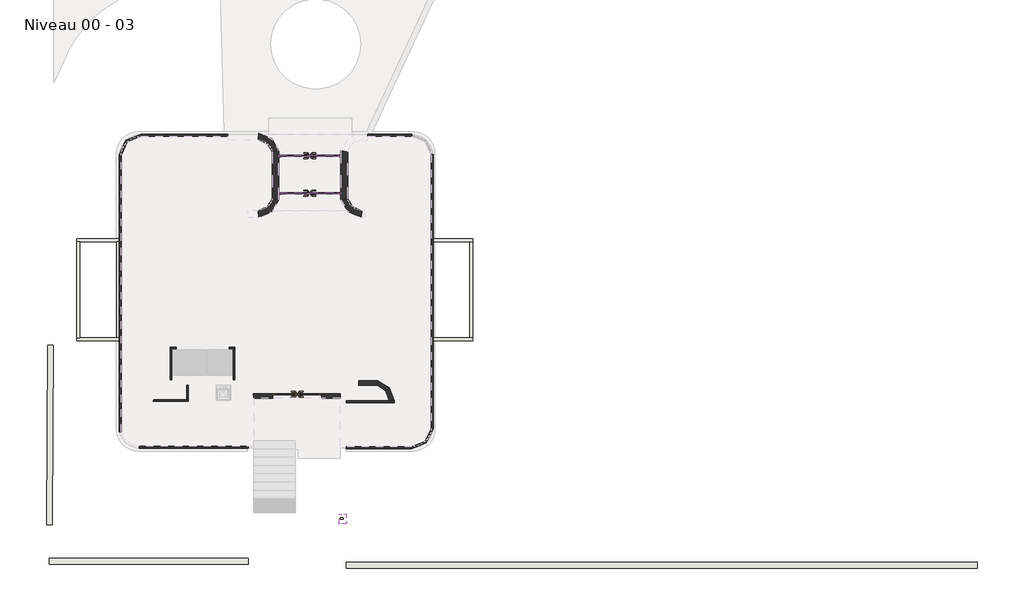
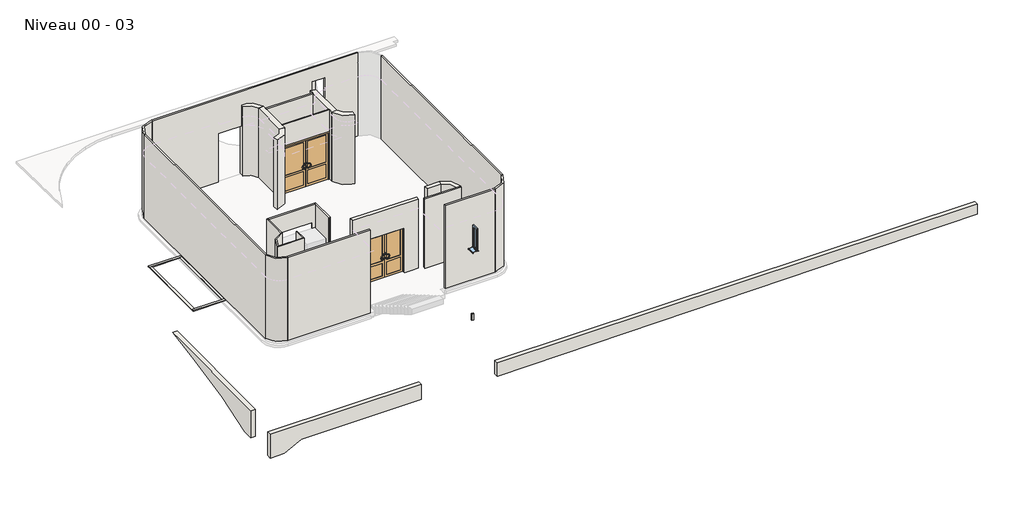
# One storey, part 1 of 2: 37 walls, 3 doors, 1 window.
"""IFC4 building model written with IfcOpenShell, lengths in millimetres."""

from ifc_helpers import new_model, si_unit, point, frame, frame_2d, origin, place, context, project, spatial, polyline, circle_curve, trimmed, segment, composite_curve, outline, extrude, faceted_brep, transform, mapped, element, save
from ifc_brep_helpers import plane_surface, cylinder_surface, revolved_surface, advanced_brep
from components import door_1_63m_x_2_10m_9088033a, door_2m_x_2_20m_0dc4434d, window_32_x_105_cm_cd53f0fd

model = new_model("IFC4")

# Units and contexts
model_context = context("Model", 3, world=origin())
ifc_project = project(units=[si_unit("LENGTHUNIT", "METRE", prefix="MILLI")], contexts=[model_context])

# Site, building, storey
site = spatial("IfcSite", under=ifc_project)
building = spatial("IfcBuilding", under=site)
storey = spatial("IfcBuildingStorey", under=building, Name="Niveau 00 - 03", Elevation=2313.3082742)

# Doors
placement = place(None, origin())
door_1_63m_x_2_10m_shape = door_1_63m_x_2_10m_9088033a(model_context)
element("IfcDoor", 1, ObjectType="PVC Double - Panneaux vitrés haut : 1.63m x 2.10m", at=placement, inside=storey, context=model_context, shape_type="MappedRepresentation", body=[
    mapped(door_1_63m_x_2_10m_shape, transform((-17285.8209314, 17321.0043299, 2313.3082742), x_axis=(-1.0, 0.0, 0.0), y_axis=(0.0, -1.0, 0.0), z_axis=(0.0, 0.0, 1.0))),
])
door_2m_x_2_20m_shape = door_2m_x_2_20m_0dc4434d(model_context)
element("IfcDoor", 2, ObjectType="PVC Double - Panneaux vitrés haut : 2m x 2.20m", at=placement, inside=storey, context=model_context, shape_type="MappedRepresentation", body=[
    mapped(door_2m_x_2_20m_shape, transform((-16855.3577962, 25423.7928549, 2313.3082742), x_axis=(-1.0, 0.0, 0.0), y_axis=(0.0, -1.0, 0.0), z_axis=(0.0, 0.0, 1.0))),
])
element("IfcDoor", 3, ObjectType="PVC Double - Panneaux vitrés haut : 2m x 2.20m", at=placement, inside=storey, context=model_context, shape_type="MappedRepresentation", body=[
    mapped(door_2m_x_2_20m_shape, transform((-16855.3577962, 24159.9768806, 2313.3082742), x_axis=(-1.0, 0.0, 0.0), y_axis=(0.0, -1.0, 0.0), z_axis=(0.0, 0.0, 1.0))),
])

# Walls
element("IfcWall", 4, ObjectType="Mur EXE 200- Hach", at=placement, inside=storey, context=model_context, shape_type="SweptSolid", body=[
    extrude(outline(polyline([(622.531622, -15635.8209314), (798.2088739, 5684.4653665), (1259.6267175, 5684.4653665), (1259.6267175, -15635.8209314), (622.531622, -15635.8209314)])), frame((0.0, 11514.8559081, 0.0), z_axis=(0.0, 1.0, 0.0), x_axis=(0.0, 0.0, 1.0)), (0.0, 0.0, 1.0), 200.0),
])
element("IfcWall", 5, ObjectType="@_Générique - Int. 100 mm", at=placement, inside=storey, context=model_context, shape_type="Brep", body=[
    faceted_brep([(-11353.9252008, 22643.951789, 2213.3082742), (-12973.9252028, 22643.9517885, 2213.3082742), (-12973.9252028, 22643.9517885, 2248.3082742), (-11353.9252008, 22643.951789, 2248.3082742), (-11353.9252007, 22543.951789, 2213.3082742), (-11353.9252007, 22543.951789, 2248.3082742), (-11453.9252007, 22543.9517889, 2248.3082742), (-12873.9252027, 22543.9517885, 2248.3082742), (-12973.9252027, 22543.9517885, 2248.3082742), (-12973.9252027, 22543.9517885, 2213.3082742), (-12873.9252027, 22543.9517885, 2213.3082742), (-11453.9252007, 22543.9517889, 2213.3082742)], [[[0, 1, 2, 3]], [[4, 5, 6, 7, 8, 9, 10, 11]], [[1, 0, 4, 11, 10, 9]], [[3, 2, 8, 7, 6, 5]], [[0, 3, 5, 4]], [[2, 1, 9, 8]]]),
])
element("IfcWall", 6, ObjectType="@_Générique - Int. 100 mm", at=placement, inside=storey, context=model_context, shape_type="SweptSolid", body=[
    extrude(outline(polyline([(-11453.9252007, 22543.9517889), (-11353.9252007, 22543.951789), (-11353.9251982, 19293.9517898), (-11453.9251982, 19293.9517898), (-11453.9252007, 22543.9517889)])), frame((0.0, 0.0, 2213.3082742), z_axis=(0.0, 0.0, 1.0), x_axis=(1.0, 0.0, 0.0)), (0.0, 0.0, 1.0), 35.0),
])
element("IfcWall", 7, ObjectType="@_Générique - Int. 100 mm", at=placement, inside=storey, context=model_context, shape_type="Brep", body=[
    faceted_brep([(-12873.9252001, 19193.9517898, 2213.3082742), (-11353.9252007, 19193.9517898, 2213.3082742), (-11353.9252007, 19193.9517898, 2248.3082742), (-12873.9252001, 19193.9517898, 2248.3082742), (-12873.9252002, 19293.9517898, 2213.3082742), (-12873.9252002, 19293.9517898, 2248.3082742), (-11453.9251982, 19293.9517898, 2248.3082742), (-11353.9252007, 19293.9517898, 2248.3082742), (-11353.9252007, 19293.9517898, 2213.3082742), (-11453.9251982, 19293.9517898, 2213.3082742)], [[[0, 1, 2, 3]], [[4, 5, 6, 7, 8, 9]], [[1, 0, 4, 9, 8]], [[2, 1, 8, 7]], [[3, 2, 7, 6, 5]], [[0, 3, 5, 4]]]),
])
element("IfcWall", 8, ObjectType="@_Générique - Int. 100 mm", at=placement, inside=storey, context=model_context, shape_type="SweptSolid", body=[
    extrude(outline(polyline([(-15723.9891644, 13222.7376981), (-15723.9891644, 13172.7376981), (-15823.9891644, 13172.7376981), (-15823.9891644, 13222.7376981), (-15723.9891644, 13222.7376981)])), frame((0.0, 0.0, 2313.3082742), z_axis=(0.0, 0.0, 1.0), x_axis=(1.0, 0.0, 0.0)), (0.0, 0.0, 1.0), 300.0),
])
element("IfcWall", 9, ObjectType="@_Générique - Int. 200 mm", at=placement, inside=storey, context=model_context, shape_type="Brep", body=[
    faceted_brep([(-25544.8151851, 13443.3148131, 386.5646826), (-25534.9184353, 15198.5787496, 956.8935731), (-25521.9042976, 17506.7351398, 1423.3082742), (-25513.2566048, 19040.4692909, 1662.0994166), (-25546.3919879, 13163.6568459, 1662.0994166), (-25547.4068865, 12983.6568459, 1662.0994166), (-25547.4068865, 12983.6568459, 700.0), (-25547.4068865, 12983.6568459, 386.5646826), (-25744.8120061, 13444.4424603, 386.5646826), (-25747.4100655, 12983.6568459, 386.5646826), (-25747.4100655, 12983.6568459, 1662.0994166), (-25713.2534258, 19041.5969382, 1662.0994166), (-25721.9011186, 17507.862787, 1423.3082742), (-25734.9152563, 15199.7063969, 956.8935731)], [[[0, 1, 2, 3, 4, 5, 6, 7]], [[8, 9, 10, 11, 12, 13]], [[0, 7, 9, 8]], [[5, 4, 3, 11, 10]], [[1, 0, 8, 13]], [[2, 1, 13, 12]], [[3, 2, 12, 11]], [[7, 6, 5, 10, 9]]]),
])
element("IfcWall", 10, ObjectType="@_Générique - Int. 100 mm", at=placement, inside=storey, context=model_context, shape_type="Brep", body=[
    faceted_brep([(-24723.1782759, 22543.951789, 2213.3082742), (-24623.1782759, 22543.951789, 2213.3082742), (-23373.1782807, 22543.9517886, 2213.3082742), (-23273.1782807, 22543.9517886, 2213.3082742), (-23273.1782807, 22543.9517886, 2248.3082742), (-23373.1782807, 22543.9517886, 2248.3082742), (-24623.1782759, 22543.951789, 2248.3082742), (-24723.1782759, 22543.951789, 2248.3082742), (-24723.1782759, 22643.951789, 2213.3082742), (-24723.1782759, 22643.951789, 2248.3082742), (-23273.1782808, 22643.9517886, 2248.3082742), (-23273.1782808, 22643.9517886, 2213.3082742)], [[[0, 1, 2, 3, 4, 5, 6, 7]], [[8, 9, 10, 11]], [[3, 2, 1, 0, 8, 11]], [[7, 6, 5, 4, 10, 9]], [[4, 3, 11, 10]], [[0, 7, 9, 8]]]),
])
element("IfcWall", 11, ObjectType="@_Générique - Int. 100 mm", at=placement, inside=storey, context=model_context, shape_type="Brep", body=[
    faceted_brep([(-23273.1782782, 19293.9517898, 2213.3082742), (-23373.1782782, 19293.9517898, 2213.3082742), (-24623.1782784, 19293.9517895, 2213.3082742), (-24723.1782784, 19293.9517895, 2213.3082742), (-24723.1782784, 19293.9517895, 2248.3082742), (-24623.1782784, 19293.9517895, 2248.3082742), (-23373.1782782, 19293.9517898, 2248.3082742), (-23273.1782782, 19293.9517898, 2248.3082742), (-23273.1782782, 19193.9517898, 2213.3082742), (-23273.1782782, 19193.9517898, 2248.3082742), (-24723.1782785, 19193.9517895, 2248.3082742), (-24723.1782785, 19193.9517895, 2213.3082742)], [[[0, 1, 2, 3, 4, 5, 6, 7]], [[8, 9, 10, 11]], [[3, 2, 1, 0, 8, 11]], [[7, 6, 5, 4, 10, 9]], [[0, 7, 9, 8]], [[4, 3, 11, 10]]]),
])
element("IfcWall", 12, ObjectType="@_Générique - Int. 100 mm", at=placement, inside=storey, context=model_context, shape_type="Brep", body=[
    faceted_brep([(-12873.9252001, 19193.9517898, 2213.3082742), (-12873.9252002, 19293.9517898, 2213.3082742), (-12873.9252027, 22543.9517885, 2213.3082742), (-12873.9252027, 22543.9517885, 2248.3082742), (-12873.9252002, 19293.9517898, 2248.3082742), (-12873.9252001, 19193.9517898, 2248.3082742), (-12973.9252001, 19193.9517898, 2213.3082742), (-12973.9252001, 19193.9517898, 2248.3082742), (-12973.9252027, 22543.9517885, 2248.3082742), (-12973.9252027, 22543.9517885, 2213.3082742)], [[[0, 1, 2, 3, 4, 5]], [[6, 7, 8, 9]], [[2, 1, 0, 6, 9]], [[5, 4, 3, 8, 7]], [[0, 5, 7, 6]], [[3, 2, 9, 8]]]),
])
element("IfcWall", 13, ObjectType="@_Générique - Int. 100 mm", at=placement, inside=storey, context=model_context, shape_type="SweptSolid", body=[
    extrude(outline(polyline([(-23273.1782807, 22543.9517886), (-23273.1782782, 19293.9517898), (-23373.1782782, 19293.9517898), (-23373.1782807, 22543.9517886), (-23273.1782807, 22543.9517886)])), frame((0.0, 0.0, 2213.3082742), z_axis=(0.0, 0.0, 1.0), x_axis=(1.0, 0.0, 0.0)), (0.0, 0.0, 1.0), 35.0),
])
element("IfcWall", 14, ObjectType="@_Générique - Int. 150 mm", at=placement, inside=storey, context=model_context, shape_type="AdvancedBrep", body=[
    advanced_brep(
    [(-18775.5302955, 17396.0043299, 5571.8727639), (-15835.8209314, 17396.0043299, 5571.8727639), (-15835.8209314, 17396.0043299, 2313.3082742), (-16420.8209314, 17396.0043299, 2313.3082742), (-16420.8209314, 17396.0043299, 4463.3082742), (-18150.8209314, 17396.0043299, 4463.3082742), (-18150.8209314, 17396.0043299, 2313.3082742), (-18775.5302955, 17396.0043299, 2313.3082742), (-18744.0938634, 17246.0043299, 5571.8727639), (-18744.0938634, 17246.0043299, 2313.3082742), (-18110.8209314, 17246.0043299, 2313.3082742), (-18110.8209314, 17246.0043299, 4423.3082742), (-16460.8209314, 17246.0043299, 4423.3082742), (-16460.8209314, 17246.0043299, 2313.3082742), (-15835.8209314, 17246.0043299, 2313.3082742), (-15835.8209314, 17246.0043299, 5571.8727639), (-18744.0938634, 17286.9701556, 2313.3082742), (-18150.8209314, 17346.0043299, 2313.3082742), (-18110.8209314, 17346.0043299, 2313.3082742), (-16460.8209314, 17346.0043299, 2313.3082742), (-16420.8209314, 17346.0043299, 2313.3082742), (-18744.0938634, 17286.9701556, 5571.8727639), (-18110.8209314, 17346.0043299, 4423.3082742), (-16460.8209314, 17346.0043299, 4423.3082742), (-16420.8209314, 17346.0043299, 4463.3082742), (-18150.8209314, 17346.0043299, 4463.3082742)],
    [
        (0, 1),
        (1, 2),
        (2, 3),
        (3, 4),
        (4, 5),
        (5, 6),
        (6, 7),
        (7, 0),
        (8, 9),
        (9, 10),
        (10, 11),
        (11, 12),
        (12, 13),
        (13, 14),
        (14, 15),
        (15, 8),
        (9, 16),
        (16, 7, circle_curve(frame((-19479.8610382, 17133.884715, 2313.3082742), z_axis=(0.0, 0.0, 1.0), x_axis=(-0.2036999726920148, 0.9790333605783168, 0.0)), 751.5241098)),
        (6, 17),
        (17, 18),
        (18, 10),
        (2, 14),
        (13, 19),
        (19, 20),
        (20, 3),
        (0, 21, circle_curve(frame((-19479.8610382, 17133.884715, 5571.8727639), z_axis=(0.0, 0.0, -1.0), x_axis=(-0.2036999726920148, 0.9790333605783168, 0.0)), 751.5241098)),
        (21, 8),
        (15, 1),
        (16, 21),
        (22, 23),
        (23, 12),
        (11, 22),
        (23, 19),
        (18, 22),
        (20, 24),
        (24, 4),
        (17, 25),
        (25, 24),
        (25, 5),
    ],
    [
        plane_surface(frame((-12442.8151053, 17396.0043299, 2313.3082742), z_axis=(0.0, 1.0, 0.0), x_axis=(-1.0, 0.0, 0.0))),
        plane_surface(frame((-12442.8151053, 17246.0043299, 2313.3082742), z_axis=(0.0, -1.0, 0.0), x_axis=(1.0, 0.0, 0.0))),
        plane_surface(frame((-15735.8209314, 17396.0043299, 2313.3082742), z_axis=(0.0, 0.0, -1.0), x_axis=(0.0, -1.0, 0.0))),
        plane_surface(frame((-18855.78579, 17396.0043299, 5571.8727639), z_axis=(0.0, 0.0, 1.0), x_axis=(0.0, -1.0, 0.0))),
        revolved_surface(polyline([(-19632.946478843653, 17869.651889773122, 5571.8727639), (-19632.946478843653, 17869.651889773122, 2313.3082742)]), (-19479.8610382, 17133.884715, 2150.3800498), (0.0, 0.0, 1.0)),
        plane_surface(frame((-18744.0938634, 13878.9275073, 2150.3800498), z_axis=(-1.0, 0.0, 0.0), x_axis=(0.0, -1.0, 0.0))),
        plane_surface(frame((-15835.8209314, 17321.0043299, 2253.3082742), z_axis=(1.0, 0.0, 0.0), x_axis=(0.0, -1.0, 0.0))),
        plane_surface(frame((-16460.8209314, 16946.0043299, 4423.3082742), z_axis=(0.0, 0.0, -1.0), x_axis=(1.0, 0.0, 0.0))),
        plane_surface(frame((-16460.8209314, 16946.0043299, 4423.3082742), z_axis=(-1.0, 0.0, 0.0), x_axis=(0.0, 0.0, -1.0))),
        plane_surface(frame((-18110.8209314, 17696.0043299, 4423.3082742), z_axis=(1.0, 0.0, 0.0), x_axis=(0.0, 0.0, -1.0))),
        plane_surface(frame((-16420.8209314, 17396.0043299, 2313.3082742), z_axis=(-1.0, 0.0, 0.0), x_axis=(0.0, 0.0, 1.0))),
        plane_surface(frame((-16420.8209314, 17346.0043299, 2313.3082742), z_axis=(0.0, 1.0, 0.0), x_axis=(0.0, 0.0, 1.0))),
        plane_surface(frame((-16420.8209314, 17396.0043299, 4463.3082742), z_axis=(0.0, 0.0, -1.0), x_axis=(-1.0, 0.0, 0.0))),
        plane_surface(frame((-18150.8209314, 17396.0043299, 4463.3082742), z_axis=(1.0, 0.0, 0.0), x_axis=(0.0, 0.0, -1.0))),
    ],
    [
        (0, [[1, 2, 3, 4, 5, 6, 7, 8]]),
        (1, [[9, 10, 11, 12, 13, 14, 15, 16]]),
        (2, [[17, 18, -7, 19, 20, 21, -10]]),
        (2, [[22, -14, 23, 24, 25, -3]]),
        (3, [[-1, 26, 27, -16, 28]]),
        (4, [[-8, -18, 29, -26]]),
        (5, [[-9, -27, -29, -17]]),
        (6, [[-2, -28, -15, -22]]),
        (7, [[30, 31, -12, 32]]),
        (8, [[33, -23, -13, -31]]),
        (9, [[34, -32, -11, -21]]),
        (10, [[35, 36, -4, -25]]),
        (11, [[-30, -34, -20, 37, 38, -35, -24, -33]]),
        (12, [[-36, -38, 39, -5]]),
        (13, [[-37, -19, -6, -39]]),
    ],
),
])
element("IfcWall", 15, ObjectType="@_Générique - Int. 50 mm", at=placement, inside=storey, context=model_context, shape_type="Brep", body=[
    faceted_brep([(-21571.0164155, 18981.184365, 2313.3082742), (-21571.0164155, 17883.2103044, 2313.3082742), (-21571.0164155, 17883.2103044, 5571.8727639), (-21571.0164155, 18981.184365, 5571.8727639), (-21521.0164155, 18981.184365, 2313.3082742), (-21521.0164155, 18981.184365, 5571.8727639), (-21521.0164155, 18931.184365, 5571.8727639), (-21521.0164155, 17883.2103044, 5571.8727639), (-21521.0164155, 17883.2103044, 2313.3082742), (-21521.0164155, 18931.184365, 2313.3082742)], [[[0, 1, 2, 3]], [[4, 5, 6, 7, 8, 9]], [[1, 0, 4, 9, 8]], [[3, 2, 7, 6, 5]], [[0, 3, 5, 4]], [[2, 1, 8, 7]]]),
])
element("IfcWall", 16, ObjectType="@_Générique - Int. 50 mm", at=placement, inside=storey, context=model_context, shape_type="SweptSolid", body=[
    extrude(outline(polyline([(-21011.3825887, 17198.2103044), (-21011.3825887, 17683.2103044), (-20961.3825887, 17683.2103044), (-20961.3825887, 17198.2103044), (-21011.3825887, 17198.2103044)])), frame((0.0, 0.0, 2313.3082742), z_axis=(0.0, 0.0, 1.0), x_axis=(1.0, 0.0, 0.0)), (0.0, 0.0, 1.0), 3258.5644896),
])
element("IfcWall", 17, ObjectType="@_Générique - Int. 50 mm", at=placement, inside=storey, context=model_context, shape_type="AdvancedBrep", body=[
    advanced_brep(
    [(-20961.3825887, 17198.2103044, 2313.3082742), (-21011.3825887, 17198.2103044, 2313.3082742), (-22085.8930881, 17198.2103044, 2313.3082742), (-22135.9825783, 17198.2103044, 2313.3082742), (-22135.9825783, 17198.2103044, 5571.8727639), (-22085.8930881, 17198.2103044, 5571.8727639), (-21011.3825887, 17198.2103044, 5571.8727639), (-20961.3825887, 17198.2103044, 5571.8727639), (-20961.3825887, 17148.2103044, 2313.3082742), (-20961.3825887, 17148.2103044, 5571.8727639), (-22137.2683576, 17148.2103044, 5571.8727639), (-22137.2683576, 17148.2103044, 2313.3082742)],
    [
        (0, 1),
        (1, 2),
        (2, 3),
        (3, 4),
        (4, 5),
        (5, 6),
        (6, 7),
        (7, 0),
        (8, 9),
        (9, 10),
        (10, 11),
        (11, 8),
        (0, 8),
        (11, 3, circle_curve(frame((-21358.6040474, 17153.2030279, 2313.3082742), z_axis=(0.0, 0.0, -1.0), x_axis=(1.0, 0.0, 0.0)), 778.6803165)),
        (4, 10, circle_curve(frame((-21358.6040474, 17153.2030279, 5571.8727639), z_axis=(0.0, 0.0, 1.0), x_axis=(1.0, 0.0, 0.0)), 778.6803165)),
        (9, 7),
    ],
    [
        plane_surface(frame((-18761.0694652, 17198.2103044, 2313.3082742), z_axis=(0.0, 1.0, 0.0), x_axis=(-1.0, 0.0, 0.0))),
        plane_surface(frame((-18761.0694652, 17148.2103044, 2313.3082742), z_axis=(0.0, -1.0, 0.0), x_axis=(1.0, 0.0, 0.0))),
        plane_surface(frame((-20986.3825887, 17198.2103044, 2313.3082742), z_axis=(0.0, 0.0, -1.0), x_axis=(0.0, -1.0, 0.0))),
        plane_surface(frame((-22112.0187595, 17198.2103044, 5571.8727639), z_axis=(0.0, 0.0, 1.0), x_axis=(0.0, -1.0, 0.0))),
        plane_surface(frame((-20961.3825887, 19418.5234279, 2313.3082742), z_axis=(1.0, 0.0, 0.0), x_axis=(0.0, 1.0, 0.0))),
        cylinder_surface(frame((-21358.6040474, 17153.2030279, 2313.3082742), z_axis=(0.0, 0.0, 1.0), x_axis=(1.0, 0.0, 0.0)), 778.6803165),
    ],
    [
        (0, [[1, 2, 3, 4, 5, 6, 7, 8]]),
        (1, [[9, 10, 11, 12]]),
        (2, [[-3, -2, -1, 13, -12, 14]]),
        (3, [[-7, -6, -5, 15, -10, 16]]),
        (4, [[-8, -16, -9, -13]]),
        (5, [[-4, -14, -11, -15]]),
    ],
),
])
element("IfcWall", 18, ObjectType="@_Générique - Int. 50 mm", at=placement, inside=storey, context=model_context, shape_type="SweptSolid", body=[
    extrude(outline(polyline([(-15805.3577962, 24134.9768806), (-17900.3577962, 24134.9768806), (-17900.3577962, 24184.9768806), (-15805.3577962, 24184.9768806), (-15805.3577962, 24134.9768806)])), frame((0.0, 0.0, 4563.3082742), z_axis=(0.0, 0.0, 1.0), x_axis=(1.0, 0.0, 0.0)), (0.0, 0.0, 1.0), 1008.5644896),
])
element("IfcWall", 19, ObjectType="@_Générique - Int. 50 mm", at=placement, inside=storey, context=model_context, shape_type="SweptSolid", body=[
    extrude(outline(polyline([(-15805.3577962, 25398.7928549), (-17900.3577962, 25398.7928549), (-17900.3577962, 25448.7928549), (-15805.3577962, 25448.7928549), (-15805.3577962, 25398.7928549)])), frame((0.0, 0.0, 4563.3082742), z_axis=(0.0, 0.0, 1.0), x_axis=(1.0, 0.0, 0.0)), (0.0, 0.0, 1.0), 1008.5644896),
])
element("IfcWall", 20, ObjectType="Mur EXE 200- Hach", at=placement, inside=storey, context=model_context, shape_type="Brep", body=[
    faceted_brep([(-25653.9891729, 11645.6501858, 216.2170392), (-25029.2182315, 11645.6501858, 216.2170392), (-24266.6013442, 11645.6501858, 621.7076309), (-18944.0938634, 11645.6501858, 621.7076309), (-18944.0938634, 11645.6501858, 1327.8312309), (-25453.9891729, 11645.6501858, 1327.8312309), (-25653.9891729, 11645.6501858, 1327.8312309), (-25653.9891729, 11645.6501858, 229.1067404), (-25653.9891729, 11845.6501858, 216.2170392), (-25653.9891729, 11845.6501858, 1327.8312309), (-18944.0938634, 11845.6501858, 1327.8312309), (-18944.0938634, 11845.6501858, 621.7076309), (-24266.6013442, 11845.6501858, 621.7076309), (-25029.2182315, 11845.6501858, 216.2170392)], [[[0, 1, 2, 3, 4, 5, 6, 7]], [[8, 9, 10, 11, 12, 13]], [[4, 3, 11, 10]], [[3, 2, 12, 11]], [[6, 5, 4, 10, 9]], [[1, 0, 8, 13]], [[2, 1, 13, 12]], [[0, 7, 6, 9, 8]]]),
])
element("IfcWall", 21, ObjectType="@_Générique - Int. 50 mm", at=placement, inside=storey, context=model_context, shape_type="AdvancedBrep", body=[
    advanced_brep(
    [(-19442.0346068, 18981.184365, 2313.3082742), (-19442.0346068, 18931.184365, 2313.3082742), (-19442.0346068, 17883.2103044, 2313.3082742), (-19442.0346068, 17883.2103044, 5571.8727639), (-19442.0346068, 18931.184365, 5571.8727639), (-19442.0346068, 18981.184365, 5571.8727639), (-19392.0346068, 18981.184365, 2313.3082742), (-19392.0346068, 18981.184365, 5571.8727639), (-19392.0346068, 17880.2592895, 5571.8727639), (-19392.0346068, 17880.2592895, 2313.3082742), (-19422.4184701, 17883.2103044, 2313.3082742), (-19422.4184701, 17883.2103044, 5571.8727639)],
    [
        (0, 1),
        (1, 2),
        (2, 3),
        (3, 4),
        (4, 5),
        (5, 0),
        (6, 7),
        (7, 8),
        (8, 9),
        (9, 6),
        (0, 6),
        (9, 10, circle_curve(frame((-19479.8610382, 17133.884715, 2313.3082742), z_axis=(0.0, 0.0, 1.0), x_axis=(0.9970745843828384, -0.07643476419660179, 0.0)), 751.5241098)),
        (10, 2),
        (3, 11),
        (11, 8, circle_curve(frame((-19479.8610382, 17133.884715, 5571.8727639), z_axis=(0.0, 0.0, -1.0), x_axis=(0.9970745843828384, -0.07643476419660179, 0.0)), 751.5241098)),
        (7, 5),
        (10, 11),
    ],
    [
        plane_surface(frame((-19442.0346068, 20701.4974885, 2313.3082742), z_axis=(-1.0, 0.0, 0.0), x_axis=(0.0, -1.0, 0.0))),
        plane_surface(frame((-19392.0346068, 20701.4974885, 2313.3082742), z_axis=(1.0, 0.0, 0.0), x_axis=(0.0, 1.0, 0.0))),
        plane_surface(frame((-19442.0346068, 18956.184365, 2313.3082742), z_axis=(0.0, 0.0, -1.0), x_axis=(1.0, 0.0, 0.0))),
        plane_surface(frame((-19442.0346068, 17782.3725754, 5571.8727639), z_axis=(0.0, 0.0, 1.0), x_axis=(1.0, 0.0, 0.0))),
        plane_surface(frame((-18700.703292, 18981.184365, 2313.3082742), z_axis=(0.0, 1.0, 0.0), x_axis=(-1.0, 0.0, 0.0))),
        plane_surface(frame((-20404.4005294, 17883.2103044, 2150.3800498), z_axis=(0.0, -1.0, 0.0), x_axis=(1.0, 0.0, 0.0))),
        revolved_surface(polyline([(-18730.53544876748, 17076.442146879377, 5571.8727639), (-18730.53544876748, 17076.442146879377, 2313.3082742)]), (-19479.8610382, 17133.884715, 2150.3800498), (0.0, 0.0, 1.0)),
    ],
    [
        (0, [[1, 2, 3, 4, 5, 6]]),
        (1, [[7, 8, 9, 10]]),
        (2, [[-2, -1, 11, -10, 12, 13]]),
        (3, [[-5, -4, 14, 15, -8, 16]]),
        (4, [[-6, -16, -7, -11]]),
        (5, [[-3, -13, 17, -14]]),
        (6, [[-12, -9, -15, -17]]),
    ],
),
])
element("IfcWall", 22, ObjectType="@_Générique - Int. 50 mm", at=placement, inside=storey, context=model_context, shape_type="SweptSolid", body=[
    extrude(outline(polyline([(5571.8727639, -21521.0164155), (2313.3082742, -21521.0164155), (2313.3082742, -21367.0485637), (4751.7082742, -21367.0485637), (4751.7082742, -19578.6811449), (2313.3082742, -19578.6811449), (2313.3082742, -19442.0346068), (5571.8727639, -19442.0346068), (5571.8727639, -21521.0164155)])), frame((0.0, 18931.184365, 0.0), z_axis=(0.0, 1.0, 0.0), x_axis=(0.0, 0.0, 1.0)), (0.0, 0.0, 1.0), 50.0),
])
element("IfcWall", 23, ObjectType="@_Générique - Int. 50 mm", at=placement, inside=storey, context=model_context, shape_type="SweptSolid", body=[
    extrude(outline(composite_curve([segment(polyline([(-21521.0164155, 17914.7575289), (-21521.0164155, 17863.553101)]), True, "CONTINUOUS"), segment(trimmed(circle_curve(frame_2d((-21358.6040474, 17153.2030279)), 728.6803165), [point((-21521.0164155, 17863.553101))], [point((-22085.8930881, 17198.2103044))], True, "CARTESIAN"), True, "CONTINUOUS"), segment(polyline([(-22085.8930881, 17198.2103044), (-22135.9825783, 17198.2103044)]), True, "CONTINUOUS"), segment(trimmed(circle_curve(frame_2d((-21358.6040474, 17153.2030279)), 778.6803165), [point((-22135.9825783, 17198.2103044))], [point((-21521.0164155, 17914.7575289))], False, "CARTESIAN"), True, "CONTINUOUS")], self_intersect=False)), frame((0.0, 0.0, 2313.3082742), z_axis=(0.0, 0.0, 1.0), x_axis=(1.0, 0.0, 0.0)), (0.0, 0.0, 1.0), 3258.5644896),
])
element("IfcWall", 24, ObjectType="@_Générique - Int. 100 mm", at=placement, inside=storey, context=model_context, shape_type="SweptSolid", body=[
    extrude(outline(polyline([(-24623.1782759, 22543.951789), (-24623.1782784, 19293.9517895), (-24723.1782784, 19293.9517895), (-24723.1782759, 22543.951789), (-24623.1782759, 22543.951789)])), frame((0.0, 0.0, 2213.3082742), z_axis=(0.0, 0.0, 1.0), x_axis=(1.0, 0.0, 0.0)), (0.0, 0.0, 1.0), 35.0),
])
element("IfcWall", 25, ObjectType="Ext. Voile BA 160", at=placement, inside=storey, context=model_context, shape_type="SweptSolid", body=[
    extrude(outline(polyline([(-15210.6983825, 17843.2103044), (-14567.3974997, 17843.2103044), (-14584.2310737, 17683.2103044), (-15198.7503426, 17683.2103044), (-15210.6983825, 17843.2103044)])), frame((0.0, 0.0, 2313.3082742), z_axis=(0.0, 0.0, 1.0), x_axis=(1.0, 0.0, 0.0)), (0.0, 0.0, 1.0), 3258.5644896),
])
element("IfcWall", 26, ObjectType="Ext. Voile BA 160", at=placement, inside=storey, context=model_context, shape_type="SweptSolid", body=[
    extrude(outline(composite_curve([segment(trimmed(circle_curve(frame_2d((-14702.9791992, 17162.9128258)), 693.6764784), [point((-14567.3974997, 17843.2103044))], [point((-14009.379157, 17173.2103044))], False, "CARTESIAN"), True, "CONTINUOUS"), segment(polyline([(-14009.379157, 17173.2103044), (-14169.4020769, 17173.2103044)]), True, "CONTINUOUS"), segment(trimmed(circle_curve(frame_2d((-14702.9791992, 17162.9128258)), 533.6764784), [point((-14169.4020769, 17173.2103044))], [point((-14584.2310737, 17683.2103044))], True, "CARTESIAN"), True, "CONTINUOUS"), segment(polyline([(-14584.2310737, 17683.2103044), (-14567.3974997, 17843.2103044)]), True, "CONTINUOUS")], self_intersect=False)), frame((0.0, 0.0, 2313.3082742), z_axis=(0.0, 0.0, 1.0), x_axis=(1.0, 0.0, 0.0)), (0.0, 0.0, 1.0), 3258.5644896),
])
element("IfcWall", 27, ObjectType="Ext. Voile BA 220", at=placement, inside=storey, context=model_context, shape_type="SweptSolid", body=[
    extrude(outline(composite_curve([segment(polyline([(-17900.3577962, 25607.4886247), (-18120.3577962, 25579.6195841)]), True, "CONTINUOUS"), segment(trimmed(circle_curve(frame_2d((-18641.4520175, 25432.2792504)), 541.5241098), [point((-18120.3577962, 25579.6195841))], [point((-18592.7050168, 25971.6048398))], True, "CARTESIAN"), True, "CONTINUOUS"), segment(polyline([(-18592.7050168, 25971.6048398), (-18583.6279824, 26191.6048398)]), True, "CONTINUOUS"), segment(trimmed(circle_curve(frame_2d((-18641.4520175, 25432.2792504)), 761.5241098), [point((-18583.6279824, 26191.6048398))], [point((-17900.3577962, 25607.4886247))], False, "CARTESIAN"), True, "CONTINUOUS")], self_intersect=False)), frame((0.0, 0.0, 2313.3082742), z_axis=(0.0, 0.0, 1.0), x_axis=(1.0, 0.0, 0.0)), (0.0, 0.0, 1.0), 3258.5644896),
])
element("IfcWall", 28, ObjectType="Ext. Voile BA 220", at=placement, inside=storey, context=model_context, shape_type="Brep", body=[
    faceted_brep([(-18120.3577962, 25579.6195841, 2313.3082742), (-18120.3577962, 23981.2698583, 2313.3082742), (-18120.3577962, 23981.2698583, 5571.8727639), (-18120.3577962, 25579.6195841, 5571.8727639), (-17900.3577962, 25607.4886247, 5571.8727639), (-17900.3577962, 25448.7928549, 5571.8727639), (-17900.3577962, 25398.7928549, 5571.8727639), (-17900.3577962, 24184.9768806, 5571.8727639), (-17900.3577962, 24134.9768806, 5571.8727639), (-17900.3577962, 23953.4008177, 5571.8727639), (-17900.3577962, 23953.4008177, 2313.3082742), (-17900.3577962, 24134.9768806, 2313.3082742), (-17900.3577962, 24134.9768806, 4563.3082742), (-17900.3577962, 24184.9768806, 4563.3082742), (-17900.3577962, 24184.9768806, 2313.3082742), (-17900.3577962, 25398.7928549, 2313.3082742), (-17900.3577962, 25398.7928549, 4563.3082742), (-17900.3577962, 25448.7928549, 4563.3082742), (-17900.3577962, 25448.7928549, 2313.3082742), (-17900.3577962, 25607.4886247, 2313.3082742), (-17905.3577962, 25448.7928549, 2313.3082742), (-17905.3577962, 25398.7928549, 2313.3082742), (-17905.3577962, 24184.9768806, 2313.3082742), (-17905.3577962, 24134.9768806, 2313.3082742), (-17905.3577962, 25448.7928549, 4563.3082742), (-17905.3577962, 25398.7928549, 4563.3082742), (-17905.3577962, 24184.9768806, 4563.3082742), (-17905.3577962, 24134.9768806, 4563.3082742)], [[[0, 1, 2, 3]], [[4, 5, 6, 7, 8, 9, 10, 11, 12, 13, 14, 15, 16, 17, 18, 19]], [[1, 0, 19, 18, 20, 21, 15, 14, 22, 23, 11, 10]], [[3, 2, 9, 8, 7, 6, 5, 4]], [[0, 3, 4, 19]], [[2, 1, 10, 9]], [[24, 20, 18, 17]], [[21, 25, 16, 15]], [[25, 24, 17, 16]], [[20, 24, 25, 21]], [[26, 22, 14, 13]], [[23, 27, 12, 11]], [[27, 26, 13, 12]], [[22, 26, 27, 23]]]),
])
element("IfcWall", 29, ObjectType="Ext. Voile BA 220", at=placement, inside=storey, context=model_context, shape_type="SweptSolid", body=[
    extrude(outline(composite_curve([segment(polyline([(-18120.3577962, 23981.2698583), (-17900.3577962, 23953.4008177)]), True, "CONTINUOUS"), segment(trimmed(circle_curve(frame_2d((-18641.4520175, 24128.610192)), 761.5241098), [point((-17900.3577962, 23953.4008177))], [point((-18583.6279824, 23369.2846026))], False, "CARTESIAN"), True, "CONTINUOUS"), segment(polyline([(-18583.6279824, 23369.2846026), (-18592.7050168, 23589.2846026)]), True, "CONTINUOUS"), segment(trimmed(circle_curve(frame_2d((-18641.4520175, 24128.610192)), 541.5241098), [point((-18592.7050168, 23589.2846026))], [point((-18120.3577962, 23981.2698583))], True, "CARTESIAN"), True, "CONTINUOUS")], self_intersect=False)), frame((0.0, 0.0, 2313.3082742), z_axis=(0.0, 0.0, 1.0), x_axis=(1.0, 0.0, 0.0)), (0.0, 0.0, 1.0), 3258.5644896),
])
element("IfcWall", 30, ObjectType="Ext. Voile BA 220", at=placement, inside=storey, context=model_context, shape_type="Brep", body=[
    faceted_brep([(-15805.3577962, 25607.4886247, 2313.3082742), (-15805.3577962, 25448.7928549, 2313.3082742), (-15805.3577962, 25398.7928549, 2313.3082742), (-15805.3577962, 24184.9768806, 2313.3082742), (-15805.3577962, 24134.9768806, 2313.3082742), (-15805.3577962, 23953.4008177, 2313.3082742), (-15805.3577962, 23953.4008177, 5571.8727639), (-15805.3577962, 24134.9768806, 5571.8727639), (-15805.3577962, 24184.9768806, 5571.8727639), (-15805.3577962, 25398.7928549, 5571.8727639), (-15805.3577962, 25448.7928549, 5571.8727639), (-15805.3577962, 25607.4886247, 5571.8727639), (-15585.3577962, 25579.6195841, 2313.3082742), (-15585.3577962, 25579.6195841, 5571.8727639), (-15585.3577962, 23981.2698583, 5571.8727639), (-15585.3577962, 23981.2698583, 2313.3082742)], [[[0, 1, 2, 3, 4, 5, 6, 7, 8, 9, 10, 11]], [[12, 13, 14, 15]], [[5, 4, 3, 2, 1, 0, 12, 15]], [[11, 10, 9, 8, 7, 6, 14, 13]], [[0, 11, 13, 12]], [[6, 5, 15, 14]]]),
])
element("IfcWall", 31, ObjectType="Ext. Voile BA 220", at=placement, inside=storey, context=model_context, shape_type="SweptSolid", body=[
    extrude(outline(composite_curve([segment(trimmed(circle_curve(frame_2d((-15064.2635748, 24128.610192)), 761.5241098), [point((-15122.0876099, 23369.2846026))], [point((-15805.3577962, 23953.4008177))], False, "CARTESIAN"), True, "CONTINUOUS"), segment(polyline([(-15805.3577962, 23953.4008177), (-15585.3577962, 23981.2698583)]), True, "CONTINUOUS"), segment(trimmed(circle_curve(frame_2d((-15064.2635748, 24128.610192)), 541.5241098), [point((-15585.3577962, 23981.2698583))], [point((-15113.0105755, 23589.2846026))], True, "CARTESIAN"), True, "CONTINUOUS"), segment(polyline([(-15113.0105755, 23589.2846026), (-15122.0876099, 23369.2846026)]), True, "CONTINUOUS")], self_intersect=False)), frame((0.0, 0.0, 2313.3082742), z_axis=(0.0, 0.0, 1.0), x_axis=(1.0, 0.0, 0.0)), (0.0, 0.0, 1.0), 3258.5644896),
])
element("IfcWall", 32, ObjectType="Mur en verre 70", at=placement, inside=storey, context=model_context, shape_type="SweptSolid", body=[
    extrude(outline(polyline([(-13414.5311995, 15551.1606676), (-15635.8209314, 15551.1606676), (-15635.8209314, 15621.1606676), (-13414.5311995, 15621.1606676), (-13414.5311995, 15551.1606676)])), frame((0.0, 0.0, 2313.3082742), z_axis=(0.0, 0.0, 1.0), x_axis=(1.0, 0.0, 0.0)), (0.0, 0.0, 1.0), 3908.5644896),
])
element("IfcWall", 33, ObjectType="Mur en verre 70", at=placement, inside=storey, context=model_context, shape_type="AdvancedBrep", body=[
    advanced_brep(
    [(-22557.9294247, 26161.6048398, 6221.8727639), (-13422.7861676, 26161.6048398, 6221.8727639), (-13422.7861676, 26161.6048398, 2313.3082742), (-14902.7420243, 26161.6048398, 2313.3082742), (-14902.7420243, 26161.6048398, 5571.8727639), (-15283.3597966, 26161.6048398, 5571.8727639), (-15283.3597966, 26161.6048398, 4691.7082742), (-18422.3557957, 26161.6048398, 4691.7082742), (-18422.3557957, 26161.6048398, 4591.8727639), (-19633.1776152, 26161.6048398, 4591.8727639), (-19633.1776152, 26161.6048398, 2313.3082742), (-22557.9294247, 26161.6048398, 2313.3082742), (-13422.4134534, 26091.6048398, 6221.8727639), (-22558.3021389, 26091.6048398, 6221.8727639), (-22558.3021389, 26091.6048398, 2313.3082742), (-19633.1776152, 26091.6048398, 2313.3082742), (-19633.1776152, 26091.6048398, 4591.8727639), (-18260.3893758, 26091.6048398, 4591.8727639), (-18260.3893758, 26091.6048398, 4691.7082742), (-15445.3262165, 26091.6048398, 4691.7082742), (-15445.3262165, 26091.6048398, 5571.8727639), (-14902.7420243, 26091.6048398, 5571.8727639), (-14902.7420243, 26091.6048398, 2313.3082742), (-13422.4134534, 26091.6048398, 2313.3082742)],
    [
        (0, 1),
        (1, 2),
        (2, 3),
        (3, 4),
        (4, 5),
        (5, 6),
        (6, 7),
        (7, 8),
        (8, 9),
        (9, 10),
        (10, 11),
        (11, 0),
        (12, 13),
        (13, 14),
        (14, 15),
        (15, 16),
        (16, 17),
        (17, 18),
        (18, 19),
        (19, 20),
        (20, 21),
        (21, 22),
        (22, 23),
        (23, 12),
        (2, 23),
        (22, 3),
        (10, 15),
        (14, 11),
        (0, 13),
        (12, 1),
        (16, 9),
        (8, 17, circle_curve(frame((-18641.4520175, 25432.2792504, 4591.8727639), z_axis=(0.0, 0.0, -1.0), x_axis=(1.0, 0.0, 0.0)), 761.5241098)),
        (21, 4),
        (18, 7, circle_curve(frame((-18641.4520175, 25432.2792504, 4691.7082742), z_axis=(0.0, 0.0, 1.0), x_axis=(1.0, 0.0, 0.0)), 761.5241098)),
        (6, 19, circle_curve(frame((-15064.2635748, 25432.2792504, 4691.7082742), z_axis=(0.0, 0.0, 1.0), x_axis=(0.0, 1.0, 0.0)), 761.5241098)),
        (20, 5, circle_curve(frame((-15064.2635748, 25432.2792504, 5571.8727639), z_axis=(0.0, 0.0, -1.0), x_axis=(0.0, 1.0, 0.0)), 761.5241098)),
    ],
    [
        plane_surface(frame((-13623.1776131, 26161.6048398, 2313.3082742), z_axis=(0.0, 1.0, 0.0), x_axis=(-1.0, 0.0, 0.0))),
        plane_surface(frame((-13623.1776131, 26091.6048398, 2313.3082742), z_axis=(0.0, -1.0, 0.0), x_axis=(1.0, 0.0, 0.0))),
        plane_surface(frame((-13422.6021458, 26161.6048398, 2313.3082742), z_axis=(0.0, 0.0, -1.0), x_axis=(0.0, -1.0, 0.0))),
        plane_surface(frame((-22558.1134466, 26161.6048398, 6221.8727639), z_axis=(0.0, 0.0, 1.0), x_axis=(0.0, -1.0, 0.0))),
        plane_surface(frame((-14902.7420243, 26091.6048398, 4591.8727639), z_axis=(0.0, 0.0, -1.0), x_axis=(1.0, 0.0, 0.0))),
        plane_surface(frame((-14902.7420243, 26091.6048398, 4591.8727639), z_axis=(-1.0, 0.0, 0.0), x_axis=(0.0, 0.0, -1.0))),
        plane_surface(frame((-19633.1776152, 26161.6048398, 4591.8727639), z_axis=(1.0, 0.0, 0.0), x_axis=(0.0, 0.0, -1.0))),
        plane_surface(frame((-13471.2876312, 26191.6048398, 4691.7082742), z_axis=(0.0, 0.0, -1.0), x_axis=(-1.0, 0.0, 0.0))),
        cylinder_surface(frame((-18641.4520175, 25432.2792504, 4691.7082742), z_axis=(0.0, 0.0, 1.0), x_axis=(1.0, 0.0, 0.0)), 761.5241098),
        plane_surface(frame((-15117.7420243, 26191.6048398, 5571.8727639), z_axis=(0.0, 0.0, -1.0), x_axis=(0.0, -1.0, 0.0))),
        revolved_surface(polyline([(-15064.2635748, 26193.8033602, 5571.8727639), (-15064.2635748, 26193.8033602, 4691.7082742)]), (-15064.2635748, 25432.2792504, 2313.3082742), (0.0, 0.0, 1.0)),
        plane_surface(frame((-22557.9294247, 26161.6048398, 2313.3082742), z_axis=(-0.9999858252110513, 0.005324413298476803, 0.0), x_axis=(-0.005324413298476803, -0.9999858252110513, 0.0))),
        plane_surface(frame((-13422.4134534, 26091.6048398, 2313.3082742), z_axis=(0.9999858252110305, 0.005324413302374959, 0.0), x_axis=(-0.005324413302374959, 0.9999858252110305, 0.0))),
    ],
    [
        (0, [[1, 2, 3, 4, 5, 6, 7, 8, 9, 10, 11, 12]]),
        (1, [[13, 14, 15, 16, 17, 18, 19, 20, 21, 22, 23, 24]]),
        (2, [[-3, 25, -23, 26]]),
        (2, [[-11, 27, -15, 28]]),
        (3, [[-1, 29, -13, 30]]),
        (4, [[31, -9, 32, -17]]),
        (5, [[-26, -22, 33, -4]]),
        (6, [[-31, -16, -27, -10]]),
        (7, [[34, -7, 35, -19]]),
        (8, [[-34, -18, -32, -8]]),
        (9, [[-33, -21, 36, -5]]),
        (10, [[-36, -20, -35, -6]]),
        (11, [[-12, -28, -14, -29]]),
        (12, [[-2, -30, -24, -25]]),
    ],
),
])
element("IfcWall", 34, ObjectType="Mur en verre 70", at=placement, inside=storey, context=model_context, shape_type="SweptSolid", body=[
    extrude(outline(polyline([(-22622.8982308, 15632.177026), (-18944.0938634, 15632.177026), (-18944.0938634, 15562.177026), (-22624.7874505, 15562.177026), (-22622.8982308, 15632.177026)])), frame((0.0, 0.0, 2313.3082742), z_axis=(0.0, 0.0, 1.0), x_axis=(1.0, 0.0, 0.0)), (0.0, 0.0, 1.0), 3908.5644896),
])
element("IfcWall", 35, ObjectType="Mur en verre 70", at=placement, inside=storey, context=model_context, shape_type="SweptSolid", body=[
    extrude(outline(polyline([(-23228.5797272, 25456.6029519), (-23228.5797272, 16128.3066207), (-23298.5797272, 16119.6113052), (-23298.5797272, 25456.6029519), (-23228.5797272, 25456.6029519)])), frame((0.0, 0.0, 2313.3082742), z_axis=(0.0, 0.0, 1.0), x_axis=(1.0, 0.0, 0.0)), (0.0, 0.0, 1.0), 3908.5644896),
])
element("IfcWall", 36, ObjectType="Mur en verre 70", at=placement, inside=storey, context=model_context, shape_type="SweptSolid", body=[
    extrude(outline(polyline([(-12683.5797272, 25482.546632), (-12683.5797272, 16222.3309016), (-12753.5797272, 16225.3903919), (-12753.5797272, 25479.8767464), (-12683.5797272, 25482.546632)])), frame((0.0, 0.0, 2313.3082742), z_axis=(0.0, 0.0, 1.0), x_axis=(1.0, 0.0, 0.0)), (0.0, 0.0, 1.0), 3908.5644896),
])
element("IfcWall", 37, ObjectType="Mur en verre 70", at=placement, inside=storey, context=model_context, shape_type="AdvancedBrep", body=[
    advanced_brep(
    [(-23298.5797272, 16119.6113052, 6221.8727639), (-22624.7874505, 15562.177026, 6221.8727639), (-22622.8982308, 15632.177026, 6221.8727639), (-23228.5797272, 16128.3066207, 6221.8727639), (-22624.7874505, 15562.177026, 2313.3082742), (-23298.5797272, 16119.6113052, 2313.3082742), (-23228.5797272, 16128.3066207, 2313.3082742), (-22622.8982308, 15632.177026, 2313.3082742), (-22622.8982308, 15632.177026, 5771.8727639), (-22622.8982308, 15632.177026, 5571.8727639), (-23228.5797272, 16128.3066207, 5571.8727639), (-23228.5797272, 16128.3066207, 5771.8727639)],
    [
        (0, 1, circle_curve(frame((-22586.1843928, 16294.774502, 6221.8727639), z_axis=(0.0, 0.0, 1.0), x_axis=(1.0, 0.0, 0.0)), 733.6138344)),
        (1, 2),
        (2, 3, circle_curve(frame((-22586.1843928, 16294.774502, 6221.8727639), z_axis=(0.0, 0.0, -1.0), x_axis=(1.0, 0.0, 0.0)), 663.6138344)),
        (3, 0),
        (4, 5, circle_curve(frame((-22586.1843928, 16294.774502, 2313.3082742), z_axis=(0.0, 0.0, -1.0), x_axis=(1.0, 0.0, 0.0)), 733.6138344)),
        (5, 6),
        (6, 7, circle_curve(frame((-22586.1843928, 16294.774502, 2313.3082742), z_axis=(0.0, 0.0, 1.0), x_axis=(1.0, 0.0, 0.0)), 663.6138344)),
        (7, 4),
        (0, 5),
        (4, 1),
        (2, 8),
        (8, 9),
        (9, 7),
        (6, 10),
        (10, 11),
        (11, 3),
    ],
    [
        plane_surface(frame((-21852.5705584, 16294.774502, 6221.8727639), z_axis=(0.0, 0.0, 1.0), x_axis=(0.0, 1.0, 0.0))),
        plane_surface(frame((-21852.5705584, 16294.774502, 2313.3082742), z_axis=(0.0, 0.0, -1.0), x_axis=(0.0, -1.0, 0.0))),
        cylinder_surface(frame((-22586.1843928, 16294.774502, 2313.3082742), z_axis=(0.0, 0.0, 1.0), x_axis=(1.0, 0.0, 0.0)), 733.6138344),
        revolved_surface(polyline([(-21922.570558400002, 16294.774502, 2313.3082742), (-21922.570558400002, 16294.774502, 6221.8727639)]), (-22586.1843928, 16294.774502, 2313.3082742), (0.0, 0.0, -1.0)),
        plane_surface(frame((-22624.7874505, 15562.177026, 2313.3082742), z_axis=(0.9996359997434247, -0.026979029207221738, 0.0), x_axis=(0.026979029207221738, 0.9996359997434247, 0.0))),
        plane_surface(frame((-23228.5797272, 16128.3066207, 2313.3082742), z_axis=(-0.12327137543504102, 0.9923729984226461, 0.0), x_axis=(-0.9923729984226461, -0.12327137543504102, 0.0))),
    ],
    [
        (0, [[1, 2, 3, 4]]),
        (1, [[5, 6, 7, 8]]),
        (2, [[-1, 9, -5, 10]]),
        (3, [[-3, 11, 12, 13, -7, 14, 15, 16]]),
        (4, [[-2, -10, -8, -13, -12, -11]]),
        (5, [[-4, -16, -15, -14, -6, -9]]),
    ],
),
])
element("IfcWall", 38, ObjectType="Mur en verre 70", at=placement, inside=storey, context=model_context, shape_type="SweptSolid", body=[
    extrude(outline(composite_curve([segment(polyline([(-22557.9294247, 26161.6048398), (-22558.3021389, 26091.6048398)]), True, "CONTINUOUS"), segment(trimmed(circle_curve(frame_2d((-22565.5504228, 25428.0305911)), 663.6138344), [point((-22558.3021389, 26091.6048398))], [point((-23228.6090117, 25455.1714992))], True, "CARTESIAN"), True, "CONTINUOUS"), segment(polyline([(-23228.6090117, 25455.1714992), (-23298.5504428, 25458.0344045)]), True, "CONTINUOUS"), segment(trimmed(circle_curve(frame_2d((-22565.5504228, 25428.0305911)), 733.6138344), [point((-23298.5504428, 25458.0344045))], [point((-22557.9294247, 26161.6048398))], False, "CARTESIAN"), True, "CONTINUOUS")], self_intersect=False)), frame((0.0, 0.0, 2313.3082742), z_axis=(0.0, 0.0, 1.0), x_axis=(1.0, 0.0, 0.0)), (0.0, 0.0, 1.0), 3908.5644896),
])
element("IfcWall", 39, ObjectType="Mur en verre 70", at=placement, inside=storey, context=model_context, shape_type="SweptSolid", body=[
    extrude(outline(composite_curve([segment(trimmed(circle_curve(frame_2d((-13414.5311995, 16284.774502)), 663.6138344), [point((-13414.5311995, 15621.1606676))], [point((-12753.5797272, 16225.3903919))], True, "CARTESIAN"), True, "CONTINUOUS"), segment(polyline([(-12753.5797272, 16225.3903919), (-12683.5797272, 16222.3309016)]), True, "CONTINUOUS"), segment(trimmed(circle_curve(frame_2d((-13414.5311995, 16284.774502)), 733.6138344), [point((-12683.5797272, 16222.3309016))], [point((-13414.5311995, 15551.1606676))], False, "CARTESIAN"), True, "CONTINUOUS"), segment(polyline([(-13414.5311995, 15551.1606676), (-13414.5311995, 15621.1606676)]), True, "CONTINUOUS")], self_intersect=False)), frame((0.0, 0.0, 2313.3082742), z_axis=(0.0, 0.0, 1.0), x_axis=(1.0, 0.0, 0.0)), (0.0, 0.0, 1.0), 3908.5644896),
])
element("IfcWall", 40, ObjectType="Mur en verre 70", at=placement, inside=storey, context=model_context, shape_type="SweptSolid", body=[
    extrude(outline(polyline([(-15635.8209314, 17173.2103044), (-14009.7427013, 17173.2103044), (-14009.7427013, 17103.2103044), (-15635.8209314, 17103.2103044), (-15635.8209314, 17173.2103044)])), frame((0.0, 0.0, 2313.3082742), z_axis=(0.0, 0.0, 1.0), x_axis=(1.0, 0.0, 0.0)), (0.0, 0.0, 1.0), 3258.5644896),
])

# Window
window_32_x_105_cm_shape = window_32_x_105_cm_cd53f0fd(model_context)
element("IfcWindow", 41, ObjectType="Fenêtre type 1 : 32 x 105 cm", at=placement, inside=storey, context=model_context, shape_type="MappedRepresentation", body=[
    mapped(window_32_x_105_cm_shape, transform((-15735.8209314, 13168.7839151, 4821.8727639), x_axis=(0.0, 1.0, 0.0), y_axis=(-1.0, 0.0, 0.0), z_axis=(0.0, 0.0, 1.0))),
])

save(model, "model.ifc")
